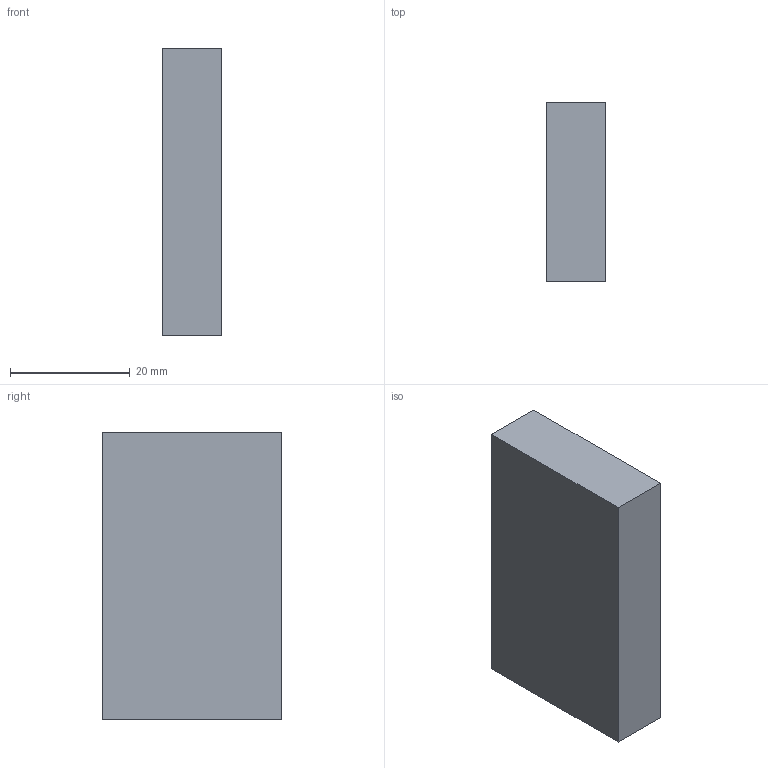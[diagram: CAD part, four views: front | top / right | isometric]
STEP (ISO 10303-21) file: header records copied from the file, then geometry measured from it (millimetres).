
FILE_DESCRIPTION(/* description */ ('STEP AP242 Edition 2','CAx-IF Rec.Pracs.---Representation and Presentation of Product Manufacturing Information (PMI)---4.0---2014-10-13','CAx-IF Rec.Pracs.---3D Tessellated Geometry---0.4---2014-09-14','2;1','CAx-IF Rec.Pracs.---User Defined Attributes---1.5---2016-08-15'),/* implementation_level */ '2;1');
FILE_NAME(/* name */ 'Main - Battery Model',/* time_stamp */ '2026-06-25T16:15:29Z',/* author */ (''),/* organization */ (''),/* preprocessor_version */ 'ST-DEVELOPER v20',/* originating_system */ 'ONSHAPE BY PTC INC, 1.216',/* authorisation */ ' ');
FILE_SCHEMA (('AP242_MANAGED_MODEL_BASED_3D_ENGINEERING_MIM_LF { 1 0 10303 442 3 1 4 }'));
Length unit declared in the file: metre
Products named in the file (1): Battery Model
Bounding box: 10 x 30 x 48 mm (x, y, z)
Volume: 14400 mm3; surface area: 4440 mm2
Topology: 1 solids, 1 shells, 6 faces, 12 edges, 8 vertices
Faces by surface type: plane 6
Entity records: 178 total; most frequent: CARTESIAN_POINT 27, DIRECTION 26, ORIENTED_EDGE 24, EDGE_CURVE 12, LINE 12, VECTOR 12, VERTEX_POINT 8, AXIS2_PLACEMENT_3D 7
